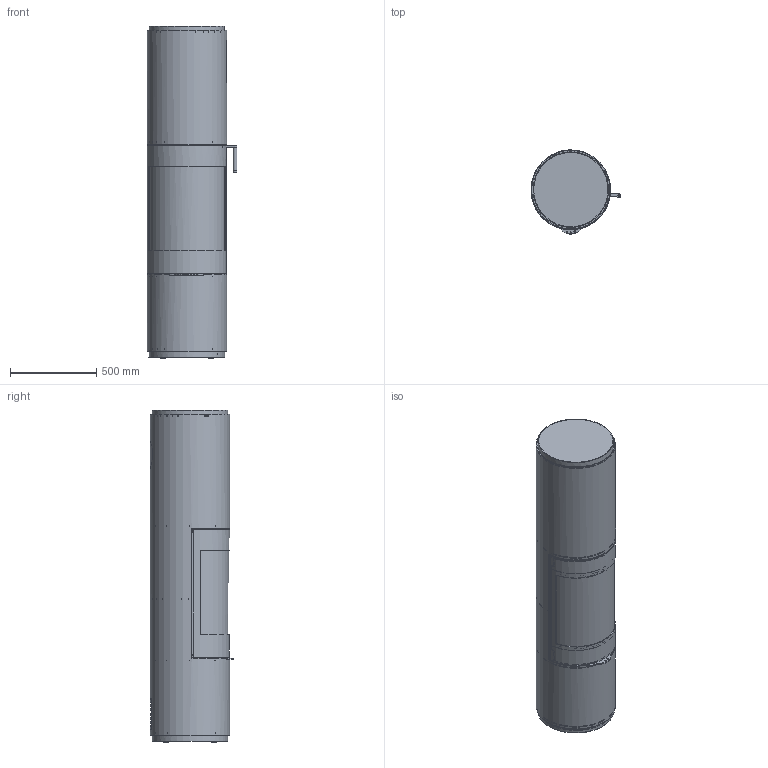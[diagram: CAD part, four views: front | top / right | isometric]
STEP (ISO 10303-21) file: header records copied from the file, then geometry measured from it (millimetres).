
FILE_DESCRIPTION(/* description */ (''),/* implementation_level */ '2;1');
FILE_NAME(/* name */ '16-0121 Pilar 1900 Classic BO.stp',/* time_stamp */ '2025-02-15T10:49:39+01:00',/* author */ ('pch'),/* organization */ (''),/* preprocessor_version */ 'ST-DEVELOPER v20',/* originating_system */ 'Autodesk Inventor 2025',/* authorisation */ '');
FILE_SCHEMA (('AUTOMOTIVE_DESIGN { 1 0 10303 214 3 1 1 }'));
Products named in the file (1): 16-0121 Pilar 1900 Classic BO
Bounding box: 522.14 x 487 x 1930 mm (x, y, z)
Volume: 19237105 mm3; surface area: 9086715.5 mm2
Topology: 10 solids, 10 shells, 2666 faces, 7540 edges, 4804 vertices
Faces by surface type: plane 1314, cylinder 959, bspline 187, torus 126, cone 69, sphere 11
Full cylindrical faces by diameter (mm): 3.5 x11, 4.2 x42, 4.662 x1, 5 x8, 5.1 x5, 5.5 x1, 6 x6, 6.75 x1, 7 x4, 8.25 x2, 8.5 x1, 10 x8, 12.5 x1, 21.8 x2, 94 x1, 98 x1, 160 x1, 414 x1, 456 x3, 462 x1
Entity records: 106075 total; most frequent: CARTESIAN_POINT 33133, ORIENTED_EDGE 15048, DIRECTION 14450, EDGE_CURVE 7524, AXIS2_PLACEMENT_3D 5077, VERTEX_POINT 4808, LINE 4296, VECTOR 4296
